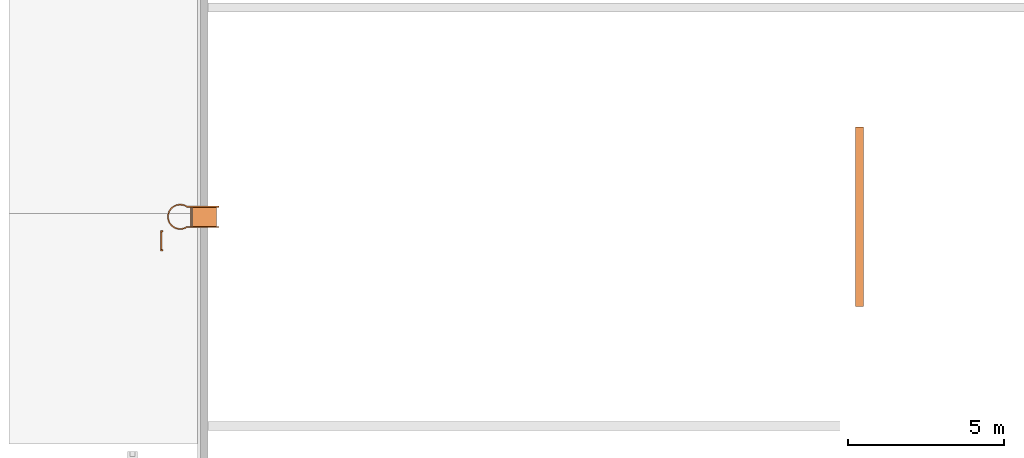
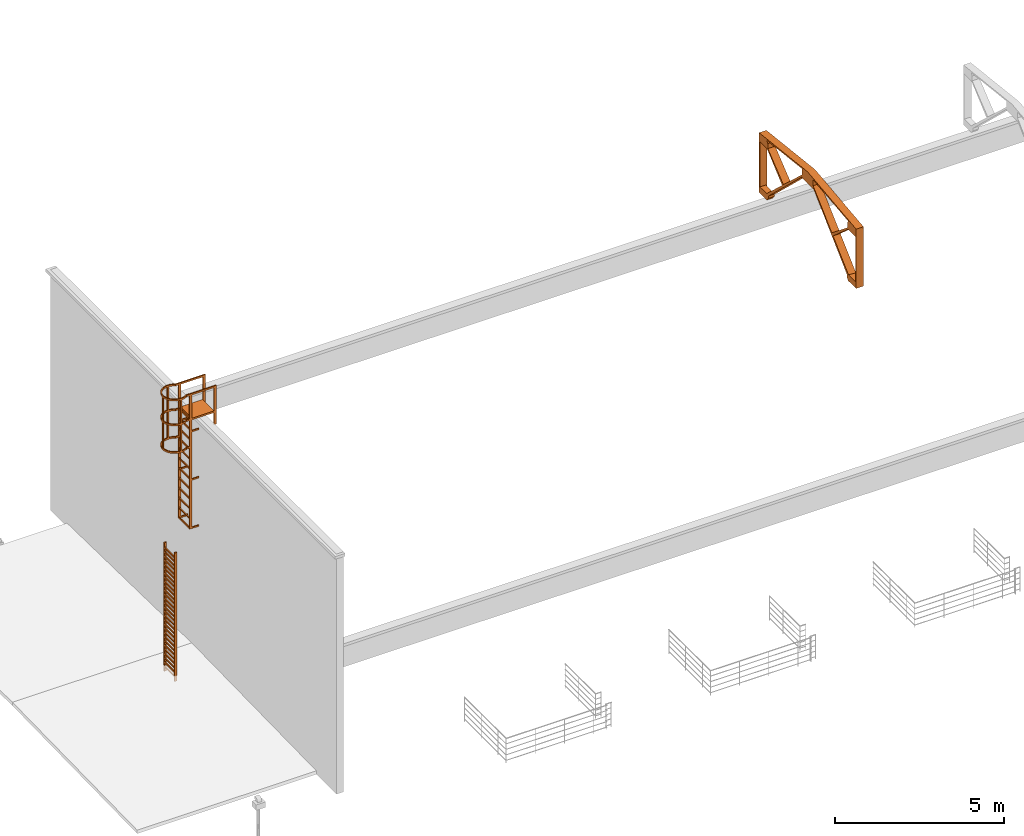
# One storey, part 4 of 6: 3 proxies.
"""IFC2X3 building model written with IfcOpenShell, lengths in millimetres."""

from ifc_helpers import new_model, entity, si_unit, converted_unit, derived_unit, direction, frame, frame_2d, origin, origin_2d_with_axis, place, context, subcontext, project, spatial, polyline, circle_curve, parameter, trimmed, segment, composite_curve, rectangle, outline, extrude, faceted_brep, source, transform, mapped, material, type_object, type_shapes, element, save


model = new_model("IFC2X3")

# Units and contexts
model_context = context("Model", 3, precision=0.01, world=origin(), true_north=direction((6.12303176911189e-17, 1.0)))
body_context = subcontext(model_context, "Body", "Model", "MODEL_VIEW")
ifc_project = project(units=[si_unit("LENGTHUNIT", "METRE", prefix="MILLI"), si_unit("AREAUNIT", "SQUARE_METRE"), si_unit("VOLUMEUNIT", "CUBIC_METRE"), converted_unit("PLANEANGLEUNIT", "DEGREE", entity("IfcRatioMeasure", 0.0174532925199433), si_unit("PLANEANGLEUNIT", "RADIAN"), dimensions=[0, 0, 0, 0, 0, 0, 0]), si_unit("MASSUNIT", "GRAM", prefix="KILO"), derived_unit("MASSDENSITYUNIT", [(si_unit("MASSUNIT", "GRAM", prefix="KILO"), 1), (si_unit("LENGTHUNIT", "METRE"), -3)]), si_unit("TIMEUNIT", "SECOND"), si_unit("FREQUENCYUNIT", "HERTZ"), si_unit("THERMODYNAMICTEMPERATUREUNIT", "DEGREE_CELSIUS"), derived_unit("THERMALTRANSMITTANCEUNIT", [(si_unit("MASSUNIT", "GRAM", prefix="KILO"), 1), (si_unit("THERMODYNAMICTEMPERATUREUNIT", "KELVIN"), -1), (si_unit("TIMEUNIT", "SECOND"), -3)]), derived_unit("VOLUMETRICFLOWRATEUNIT", [(si_unit("LENGTHUNIT", "METRE"), 3), (si_unit("TIMEUNIT", "SECOND"), -1)]), si_unit("ELECTRICCURRENTUNIT", "AMPERE"), si_unit("ELECTRICVOLTAGEUNIT", "VOLT"), si_unit("POWERUNIT", "WATT"), si_unit("FORCEUNIT", "NEWTON", prefix="KILO"), si_unit("ILLUMINANCEUNIT", "LUX"), si_unit("LUMINOUSFLUXUNIT", "LUMEN"), si_unit("LUMINOUSINTENSITYUNIT", "CANDELA"), derived_unit("USERDEFINED", [(si_unit("MASSUNIT", "GRAM", prefix="KILO"), -1), (si_unit("LENGTHUNIT", "METRE"), -2), (si_unit("TIMEUNIT", "SECOND"), 3), (si_unit("LUMINOUSFLUXUNIT", "LUMEN"), 1)]), derived_unit("LINEARVELOCITYUNIT", [(si_unit("LENGTHUNIT", "METRE"), 1), (si_unit("TIMEUNIT", "SECOND"), -1)]), si_unit("PRESSUREUNIT", "PASCAL"), derived_unit("USERDEFINED", [(si_unit("LENGTHUNIT", "METRE"), -2), (si_unit("MASSUNIT", "GRAM", prefix="KILO"), 1), (si_unit("TIMEUNIT", "SECOND"), -2)])], contexts=[model_context])

# Site, building, storey
site_placement = place(None, origin())
site = spatial("IfcSite", under=ifc_project, at=site_placement, Name="表面", CompositionType="ELEMENT")
building_placement = place(site_placement, origin())
building = spatial("IfcBuilding", under=site, at=building_placement, CompositionType="ELEMENT")
storey_placement = place(building_placement, frame((0.0, 0.0, 3300.0)))
storey = spatial("IfcBuildingStorey", under=building, at=storey_placement, Name="3.3000", CompositionType="ELEMENT", Elevation=3300.0)

# Proxies
ifc_material_1 = material(Name="钢材")
building_element_proxy_type_1 = type_object("IfcBuildingElementProxyType", Name="最上层房顶钢架", PredefinedType="NOTDEFINED", material=ifc_material_1)
shared_shape_1 = source(origin(), body_context, "Body", "Brep", [
    faceted_brep([(0.0, -250.0, 2430.07713782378), (2880.0, -250.0, 2101.40054995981), (2880.0, -250.0, 2153.09870565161), (0.0, -250.0, 2481.77529351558), (-2880.0, -250.0, 2153.09870565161), (-2880.0, -250.0, 2101.40054995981), (0.0, -200.0, 2430.07713782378), (327.886284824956, -200.0, 2392.65750403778), (327.886284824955, 0.0, 2392.65750403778), (2425.65510941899, 0.0, 2153.25212230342), (2425.65510941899, -200.0, 2153.25212230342), (2880.0, -200.0, 2101.40054995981), (2880.0, 0.0, 2153.09870565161), (0.0, 0.0, 2481.77529351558), (-2880.0, 0.0, 2153.09870565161), (-2880.0, -200.0, 2101.40054995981), (-2425.65510941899, -200.0, 2153.25212230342), (-2425.65510941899, 0.0, 2153.25212230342), (-327.886284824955, 0.0, 2392.65750403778), (-327.886284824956, -200.0, 2392.65750403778), (2880.0, 0.0, 0.0), (2409.22180214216, 0.0, 0.0), (2321.60421988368, 0.0, 111.252545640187), (2321.60421988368, 0.0, 197.515282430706), (327.886284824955, 0.0, 2095.90744203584), (327.886284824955, 0.0, 2059.45748960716), (-327.886284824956, 0.0, 2059.45748960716), (-327.886284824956, 0.0, 2095.90744203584), (-2328.1514706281, 0.0, 191.281075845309), (-2328.15147062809, 0.0, 102.939164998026), (-2409.22180214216, 0.0, 0.0), (-2880.0, 0.0, 0.0), (-2830.0, 0.0, 1859.04288670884), (-2830.0, 0.0, 220.0), (-2430.0, 0.0, 220.0), (-1509.36639488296, 0.0, 1078.50472557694), (-2407.27283607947, 0.0, 1859.04288670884), (-2358.15147062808, 0.0, 2073.12862037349), (-2358.15147062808, 0.0, 1893.80838376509), (-1435.91686212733, 0.0, 1146.99752294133), (-327.886284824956, 0.0, 2180.25275217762), (2830.0, 0.0, 1859.04288670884), (2407.27283607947, 0.0, 1859.04288670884), (1509.36639488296, 0.0, 1078.50472557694), (2430.0, 0.0, 220.0), (2830.0, 0.0, 220.0), (2358.15147062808, 0.0, 2073.12862037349), (327.886284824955, 0.0, 2180.25275217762), (1435.91686212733, 0.0, 1146.99752294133), (2358.15147062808, 0.0, 1893.80838376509), (-327.886284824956, -200.0, 2180.25275217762), (327.886284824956, -200.0, 2059.45748960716), (327.886284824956, -200.0, 2095.90744203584), (-327.886284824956, -200.0, 2059.45748960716), (208.139562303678, -200.0, 2209.92870611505), (250.56596917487, -200.0, 2252.35511298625), (327.886284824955, -200.0, 2180.25275217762), (-250.56596917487, -200.0, 2252.35511298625), (-208.139562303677, -200.0, 2209.92870611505), (-327.886284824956, -200.0, 2095.90744203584), (2880.0, -200.0, 2076.55913025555), (2880.0, -250.0, 2076.55913025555), (2880.0, -250.0, 0.0), (2358.15147062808, -200.0, 2073.12862037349), (2358.15147062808, -200.0, 1893.80838376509), (2408.42093426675, -200.0, 1934.51579277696), (2448.26226948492, -200.0, 1894.67445755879), (2407.27283607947, -200.0, 1859.04288670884), (2830.0, -200.0, 1859.04288670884), (2830.0, -200.0, 2076.55913025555), (-2409.22180214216, -200.0, 0.0), (-2328.15147062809, -200.0, 102.939164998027), (-2328.15147062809, -200.0, 191.281075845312), (-2399.52603289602, -200.0, 123.319150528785), (-2464.25943882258, -200.0, 188.052556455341), (-2430.0, -200.0, 220.0), (-2830.0, -200.0, 220.0), (-2830.0, -200.0, 0.0), (-2880.0, -250.0, 0.0), (-2880.0, -250.0, 2099.04288670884), (-2880.0, -200.0, 2099.04288670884), (-2830.0, -250.0, 0.0), (-2358.15147062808, -200.0, 2073.12862037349), (-2830.0, -200.0, 2099.04288670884), (-2830.0, -200.0, 1859.04288670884), (-2407.27283607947, -200.0, 1859.04288670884), (-2448.26226948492, -200.0, 1894.67445755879), (-2408.42093426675, -200.0, 1934.51579277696), (-2358.15147062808, -200.0, 1893.80838376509), (2321.60421988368, -200.0, 111.252545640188), (2409.22180214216, -200.0, 0.0), (2830.0, -200.0, 0.0), (2830.0, -200.0, 220.0), (2430.0, -200.0, 220.0), (2464.25943882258, -200.0, 188.05255645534), (2399.52603289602, -200.0, 123.319150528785), (2321.60421988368, -200.0, 197.515282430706), (2830.0, -250.0, 0.0), (-2830.0, -250.0, 2099.04288670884), (2830.0, -250.0, 2076.55913025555), (-2464.25943882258, -250.0, 188.052556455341), (-2399.52603289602, -250.0, 123.319150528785), (-208.139562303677, -250.0, 2209.92870611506), (-250.565969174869, -250.0, 2252.35511298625), (-1435.91686212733, -250.0, 1146.99752294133), (-2408.42093426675, -250.0, 1934.51579277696), (-2448.26226948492, -250.0, 1894.67445755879), (-1509.36639488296, -250.0, 1078.50472557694), (250.56596917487, -250.0, 2252.35511298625), (208.139562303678, -250.0, 2209.92870611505), (2399.52603289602, -250.0, 123.319150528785), (2464.25943882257, -250.0, 188.052556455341), (1509.36639488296, -250.0, 1078.50472557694), (2448.26226948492, -250.0, 1894.67445755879), (2408.42093426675, -250.0, 1934.51579277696), (1435.91686212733, -250.0, 1146.99752294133)], [[[0, 1, 2, 3, 4, 5]], [[1, 0, 6, 7, 8, 9, 10, 11]], [[3, 2, 12, 13]], [[4, 3, 13, 14]], [[0, 5, 15, 16, 17, 18, 19, 6]], [[13, 12, 20, 21, 22, 23, 24, 25, 26, 27, 28, 29, 30, 31, 14], [32, 33, 34, 35, 36], [17, 37, 38, 39, 40, 18], [41, 42, 43, 44, 45], [46, 9, 8, 47, 48, 49]], [[19, 18, 40, 50]], [[51, 25, 24, 52]], [[53, 51, 52, 54, 55, 56, 7, 6, 19, 50, 57, 58, 59]], [[2, 1, 11, 60, 61, 62, 20, 12]], [[10, 63, 64, 65, 66, 67, 68, 69, 60, 11]], [[46, 63, 10, 9]], [[63, 46, 49, 64]], [[41, 68, 67, 42]], [[70, 71, 72, 73, 74, 75, 76, 77]], [[33, 76, 75, 34]], [[5, 4, 14, 31, 78, 79, 80, 15]], [[30, 70, 77, 81, 78, 31]], [[71, 70, 30, 29]], [[71, 29, 28, 72]], [[82, 16, 15, 80, 83, 84, 85, 86, 87, 88]], [[84, 32, 36, 85]], [[37, 82, 88, 38]], [[82, 37, 17, 16]], [[51, 53, 26, 25]], [[89, 90, 91, 92, 93, 94, 95, 96]], [[22, 89, 96, 23]], [[90, 89, 22, 21]], [[90, 21, 20, 62, 97, 91]], [[92, 45, 44, 93]], [[98, 79, 78, 81]], [[79, 98, 83, 80]], [[98, 81, 77, 76, 33, 32, 84, 83]], [[99, 97, 62, 61]], [[97, 99, 69, 68, 41, 45, 92, 91]], [[99, 61, 60, 69]], [[100, 101, 102, 103, 104, 105, 106, 107]], [[103, 57, 50, 40, 39, 104]], [[101, 100, 74, 73]], [[102, 101, 73, 72, 28, 27, 59, 58]], [[103, 102, 58, 57]], [[105, 104, 39, 38, 88, 87]], [[106, 105, 87, 86]], [[107, 106, 86, 85, 36, 35]], [[108, 109, 110, 111, 112, 113, 114, 115]], [[109, 108, 55, 54]], [[110, 109, 54, 52, 24, 23, 96, 95]], [[111, 110, 95, 94]], [[55, 108, 115, 48, 47, 56]], [[113, 112, 43, 42, 67, 66]], [[114, 113, 66, 65]], [[115, 114, 65, 64, 49, 48]], [[111, 94, 93, 44, 43, 112]], [[74, 100, 107, 35, 34, 75]], [[8, 7, 56, 47]], [[26, 53, 59, 27]]]),
])
type_shapes(building_element_proxy_type_1, [shared_shape_1])
proxy_1_placement = place(storey_placement, frame((-11228.7987814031, 8109.69440753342, 7544.2315490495), z_axis=(0.0, 0.0, 1.0), x_axis=(0.0, 1.0, 0.0)))
element("IfcBuildingElementProxy", 1, at=proxy_1_placement, inside=storey, type_object=building_element_proxy_type_1, material=ifc_material_1, Name="最上层房顶钢架:最上层房顶钢架", ObjectType="最上层房顶钢架", context=body_context, shape_type="MappedRepresentation", body=[
    mapped(shared_shape_1, transform((0.0, 0.0, 0.0), scale=1.0)),
])
ifc_material_2 = material(Name="彩钢")
building_element_proxy_type_2 = type_object("IfcBuildingElementProxyType", Name="直爬梯", PredefinedType="NOTDEFINED", material=ifc_material_2)
shared_shape_2 = source(origin(), body_context, "Body", "SweptSolid", [
    extrude(rectangle(XDim=38.1000000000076, YDim=250.0, at=frame_2d((1.59872115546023e-14, -2.8421709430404e-14), x_axis=(1.0, 0.0))), frame((-323.849999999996, 245.0, 1750.0), z_axis=(0.0, 0.0, 1.0), x_axis=(-1.0, 0.0, 0.0)), (0.0, 0.0, 1.0), 49.9999999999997),
    extrude(rectangle(XDim=250.0, YDim=38.1000000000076, at=frame_2d((0.0, 1.59872115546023e-14), x_axis=(1.0, 0.0))), frame((323.849999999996, 245.0, 1750.0), z_axis=(0.0, 0.0, 1.0), x_axis=(0.0, -1.0, 0.0)), (0.0, 0.0, 1.0), 49.9999999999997),
    extrude(rectangle(XDim=38.1000000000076, YDim=250.0, at=frame_2d((1.59872115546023e-14, -2.8421709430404e-14), x_axis=(1.0, 0.0))), frame((-323.849999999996, 245.0, 3500.0), z_axis=(0.0, 0.0, 1.0), x_axis=(-1.0, 0.0, 0.0)), (0.0, 0.0, 1.0), 49.9999999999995),
    extrude(rectangle(XDim=250.0, YDim=38.1000000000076, at=frame_2d((0.0, 1.59872115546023e-14), x_axis=(1.0, 0.0))), frame((323.849999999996, 245.0, 3500.0), z_axis=(0.0, 0.0, 1.0), x_axis=(0.0, -1.0, 0.0)), (0.0, 0.0, 1.0), 49.9999999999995),
    extrude(rectangle(XDim=38.1000000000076, YDim=250.0, at=frame_2d((1.59872115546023e-14, -2.8421709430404e-14), x_axis=(1.0, 0.0))), frame((-323.849999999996, 245.0, 0.0), z_axis=(0.0, 0.0, 1.0), x_axis=(-1.0, 0.0, 0.0)), (0.0, 0.0, 1.0), 49.9999999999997),
    extrude(rectangle(XDim=250.0, YDim=38.1000000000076, at=frame_2d((0.0, 1.59872115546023e-14), x_axis=(1.0, 0.0))), frame((323.849999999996, 245.0, 0.0), z_axis=(0.0, 0.0, 1.0), x_axis=(0.0, -1.0, 0.0)), (0.0, 0.0, 1.0), 49.9999999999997),
    extrude(rectangle(XDim=610.0, YDim=38.1000000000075, at=origin_2d_with_axis()), frame((0.200000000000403, 427.149999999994, 3590.90909090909), z_axis=(0.0, 0.0, 1.0), x_axis=(-1.0, 0.0, 0.0)), (0.0, 0.0, 1.0), 49.9999999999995),
    extrude(rectangle(XDim=610.0, YDim=38.1000000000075, at=origin_2d_with_axis()), frame((0.200000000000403, 427.149999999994, 3231.81818181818), z_axis=(0.0, 0.0, 1.0), x_axis=(-1.0, 0.0, 0.0)), (0.0, 0.0, 1.0), 49.9999999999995),
    extrude(rectangle(XDim=610.0, YDim=38.1000000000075, at=origin_2d_with_axis()), frame((0.200000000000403, 427.149999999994, 2872.72727272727), z_axis=(0.0, 0.0, 1.0), x_axis=(-1.0, 0.0, 0.0)), (0.0, 0.0, 1.0), 49.9999999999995),
    extrude(rectangle(XDim=610.0, YDim=38.1000000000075, at=origin_2d_with_axis()), frame((0.200000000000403, 427.149999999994, 2513.63636363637), z_axis=(0.0, 0.0, 1.0), x_axis=(-1.0, 0.0, 0.0)), (0.0, 0.0, 1.0), 49.9999999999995),
    extrude(rectangle(XDim=610.0, YDim=38.1000000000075, at=frame_2d((0.0, -6.75015598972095e-14), x_axis=(1.0, 0.0))), frame((0.200000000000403, 427.149999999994, 2154.54545454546), z_axis=(0.0, 0.0, 1.0), x_axis=(-1.0, 0.0, 0.0)), (0.0, 0.0, 1.0), 49.9999999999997),
    extrude(rectangle(XDim=610.0, YDim=38.1000000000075, at=frame_2d((0.0, -6.75015598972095e-14), x_axis=(1.0, 0.0))), frame((0.200000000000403, 427.149999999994, 1795.45454545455), z_axis=(0.0, 0.0, 1.0), x_axis=(-1.0, 0.0, 0.0)), (0.0, 0.0, 1.0), 49.9999999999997),
    extrude(rectangle(XDim=610.0, YDim=38.1000000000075, at=origin_2d_with_axis()), frame((0.200000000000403, 427.149999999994, 1436.36363636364), z_axis=(0.0, 0.0, 1.0), x_axis=(-1.0, 0.0, 0.0)), (0.0, 0.0, 1.0), 49.9999999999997),
    extrude(rectangle(XDim=610.0, YDim=38.1000000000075, at=origin_2d_with_axis()), frame((0.200000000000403, 427.149999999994, 1077.27272727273), z_axis=(0.0, 0.0, 1.0), x_axis=(-1.0, 0.0, 0.0)), (0.0, 0.0, 1.0), 49.9999999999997),
    extrude(rectangle(XDim=610.0, YDim=38.1000000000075, at=origin_2d_with_axis()), frame((0.200000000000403, 427.149999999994, 718.181818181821), z_axis=(0.0, 0.0, 1.0), x_axis=(-1.0, 0.0, 0.0)), (0.0, 0.0, 1.0), 49.9999999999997),
    extrude(rectangle(XDim=610.0, YDim=38.1000000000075, at=frame_2d((0.0, 6.75015598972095e-14), x_axis=(1.0, 0.0))), frame((0.200000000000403, 427.149999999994, 359.090909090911), z_axis=(0.0, 0.0, 1.0), x_axis=(-1.0, 0.0, 0.0)), (0.0, 0.0, 1.0), 49.9999999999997),
    extrude(rectangle(XDim=610.0, YDim=38.1000000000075, at=origin_2d_with_axis()), frame((0.199999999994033, 427.149999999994, 3950.0), z_axis=(0.0, 0.0, 1.0), x_axis=(-1.0, 0.0, 0.0)), (0.0, 0.0, 1.0), 49.9999999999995),
    extrude(rectangle(XDim=610.0, YDim=38.1000000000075, at=frame_2d((0.0, 6.75015598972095e-14), x_axis=(1.0, 0.0))), frame((0.200000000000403, 427.149999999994, 0.0), z_axis=(0.0, 0.0, 1.0), x_axis=(-1.0, 0.0, 0.0)), (0.0, 0.0, 1.0), 49.9999999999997),
    extrude(outline(composite_curve([segment(trimmed(circle_curve(frame_2d((0.0, 271.706393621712), x_axis=(1.0, 0.0)), 409.922498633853), [parameter(326.772309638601)], [parameter(213.227690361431)], True, "PARAMETER"), True, "CONTINUOUS"), segment(polyline([(-342.900000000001, 47.0821632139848), (-342.899999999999, -52.9178367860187)]), True, "CONTINUOUS"), segment(polyline([(-342.899999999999, -52.9178367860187), (-304.800000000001, -52.9178367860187)]), True, "CONTINUOUS"), segment(polyline([(-304.800000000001, -52.9178367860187), (-304.800000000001, 58.7535103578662)]), True, "CONTINUOUS"), segment(trimmed(circle_curve(frame_2d((0.0, 271.706393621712), x_axis=(1.0, 0.0)), 371.822498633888), [parameter(325.059373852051)], [parameter(214.940626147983)], True, "PARAMETER"), False, "CONTINUOUS"), segment(polyline([(304.800000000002, 58.7535103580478), (304.8, -52.9178367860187)]), True, "CONTINUOUS"), segment(polyline([(304.8, -52.9178367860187), (342.900000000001, -52.9178367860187)]), True, "CONTINUOUS"), segment(polyline([(342.900000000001, -52.9178367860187), (342.900000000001, 47.0821632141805)]), True, "CONTINUOUS")], self_intersect=False)), frame((0.0, 499.117836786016, 2936.5)), (0.0, 0.0, 1.0), 63.5000000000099),
    extrude(rectangle(XDim=916.199999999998, YDim=38.0999999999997, at=origin_2d_with_axis()), frame((323.85, -11.9000000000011, 4836.5), z_axis=(0.0, 0.0, 1.0), x_axis=(0.0, 1.0, 0.0)), (0.0, 0.0, 1.0), 63.5000000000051),
    extrude(rectangle(XDim=916.199999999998, YDim=38.1000000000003, at=frame_2d((0.0, -1.77635683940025e-14), x_axis=(1.0, 0.0))), frame((-323.85, -11.9000000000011, 4836.5), z_axis=(0.0, 0.0, 1.0), x_axis=(0.0, 1.0, 0.0)), (0.0, 0.0, 1.0), 63.5000000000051),
    extrude(rectangle(XDim=916.199999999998, YDim=38.0999999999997, at=origin_2d_with_axis()), frame((323.85, -11.9000000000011, 3936.49999999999), z_axis=(0.0, 0.0, 1.0), x_axis=(0.0, 1.0, 0.0)), (0.0, 0.0, 1.0), 63.5000000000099),
    extrude(rectangle(XDim=916.199999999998, YDim=38.0999999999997, at=origin_2d_with_axis()), frame((-323.849999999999, -11.9000000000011, 3936.49999999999), z_axis=(0.0, 0.0, 1.0), x_axis=(0.0, 1.0, 0.0)), (0.0, 0.0, 1.0), 63.5000000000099),
    extrude(rectangle(XDim=609.6, YDim=763.8, at=origin_2d_with_axis()), frame((0.0, -11.8999999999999, 3936.49999999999), z_axis=(0.0, 0.0, 1.0), x_axis=(-1.0, 0.0, 0.0)), (0.0, 0.0, 1.0), 63.5000000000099),
    extrude(rectangle(XDim=38.1000000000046, YDim=50.8000000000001, at=origin_2d_with_axis()), frame((390.872498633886, 770.824230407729, 3000.0), z_axis=(0.0, 0.0, 1.0), x_axis=(-1.0, 0.0, 0.0)), (0.0, 0.0, 1.0), 1836.5),
    extrude(rectangle(XDim=38.0999999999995, YDim=50.8000000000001, at=frame_2d((-3.37507799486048e-14, 0.0), x_axis=(1.0, 0.0))), frame((-390.872498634, 770.824230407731, 3000.0), z_axis=(0.0, 0.0, 1.0), x_axis=(-1.0, 0.0, 0.0)), (0.0, 0.0, 1.0), 1836.5),
    extrude(rectangle(XDim=50.8000000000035, YDim=38.1, at=origin_2d_with_axis()), frame((-0.71886980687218, 1160.11300327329, 3000.0), z_axis=(0.0, 0.0, 1.0), x_axis=(-1.0, 0.0, 0.0)), (0.0, 0.0, 1.0), 1836.5),
    extrude(rectangle(XDim=38.1000000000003, YDim=76.1999999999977, at=origin_2d_with_axis()), frame((323.85, 408.099999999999, 0.0), z_axis=(0.0, 0.0, 1.0), x_axis=(-1.0, 0.0, 0.0)), (0.0, 0.0, 1.0), 4836.5),
    extrude(rectangle(XDim=38.1000000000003, YDim=76.1999999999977, at=origin_2d_with_axis()), frame((-323.85, 408.099999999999, 0.0), z_axis=(0.0, 0.0, 1.0), x_axis=(-1.0, 0.0, 0.0)), (0.0, 0.0, 1.0), 4836.5),
    extrude(rectangle(XDim=38.0999999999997, YDim=76.2, at=origin_2d_with_axis()), frame((323.85, -431.9, 3500.0), z_axis=(0.0, 0.0, 1.0), x_axis=(-1.0, 0.0, 0.0)), (0.0, 0.0, 1.0), 1336.5),
    extrude(rectangle(XDim=38.1000000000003, YDim=76.2, at=frame_2d((-1.77635683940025e-14, 0.0), x_axis=(1.0, 0.0))), frame((-323.85, -431.9, 3500.0), z_axis=(0.0, 0.0, 1.0), x_axis=(-1.0, 0.0, 0.0)), (0.0, 0.0, 1.0), 1336.5),
    extrude(outline(composite_curve([segment(trimmed(circle_curve(frame_2d((0.0, 271.706393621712), x_axis=(1.0, 0.0)), 409.922498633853), [parameter(326.772309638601)], [parameter(213.227690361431)], True, "PARAMETER"), True, "CONTINUOUS"), segment(polyline([(-342.900000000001, 47.0821632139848), (-342.899999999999, -52.9178367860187)]), True, "CONTINUOUS"), segment(polyline([(-342.899999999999, -52.9178367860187), (-304.800000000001, -52.9178367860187)]), True, "CONTINUOUS"), segment(polyline([(-304.800000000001, -52.9178367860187), (-304.800000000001, 58.7535103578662)]), True, "CONTINUOUS"), segment(trimmed(circle_curve(frame_2d((0.0, 271.706393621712), x_axis=(1.0, 0.0)), 371.822498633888), [parameter(325.059373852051)], [parameter(214.940626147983)], True, "PARAMETER"), False, "CONTINUOUS"), segment(polyline([(304.800000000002, 58.7535103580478), (304.8, -52.9178367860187)]), True, "CONTINUOUS"), segment(polyline([(304.8, -52.9178367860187), (342.900000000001, -52.9178367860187)]), True, "CONTINUOUS"), segment(polyline([(342.900000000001, -52.9178367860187), (342.900000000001, 47.0821632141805)]), True, "CONTINUOUS")], self_intersect=False)), frame((0.0, 499.117836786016, 3936.49999999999)), (0.0, 0.0, 1.0), 63.5000000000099),
    extrude(outline(composite_curve([segment(polyline([(-47.0821632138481, -342.899999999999), (52.917836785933, -342.899999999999)]), True, "CONTINUOUS"), segment(polyline([(52.917836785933, -342.899999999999), (52.917836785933, -304.799999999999)]), True, "CONTINUOUS"), segment(polyline([(52.917836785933, -304.799999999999), (-58.7535103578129, -304.800000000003)]), True, "CONTINUOUS"), segment(trimmed(circle_curve(frame_2d((-271.706393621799, 0.0), x_axis=(0.0, 1.0)), 371.822498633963), [parameter(325.059373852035)], [parameter(214.940626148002)], True, "PARAMETER"), False, "CONTINUOUS"), segment(polyline([(-58.7535103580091, 304.800000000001), (52.917836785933, 304.800000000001)]), True, "CONTINUOUS"), segment(polyline([(52.917836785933, 304.800000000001), (52.917836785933, 342.900000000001)]), True, "CONTINUOUS"), segment(polyline([(52.917836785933, 342.900000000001), (-47.0821632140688, 342.899999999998)]), True, "CONTINUOUS"), segment(trimmed(circle_curve(frame_2d((-271.706393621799, 0.0), x_axis=(0.0, 1.0)), 409.922498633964), [parameter(326.772309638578)], [parameter(213.227690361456)], True, "PARAMETER"), True, "CONTINUOUS")], self_intersect=False)), frame((0.0, 499.117836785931, 4836.5), z_axis=(0.0, 0.0, 1.0), x_axis=(0.0, -1.0, 0.0)), (0.0, 0.0, 1.0), 63.5000000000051),
])
type_shapes(building_element_proxy_type_2, [shared_shape_2])
proxy_2_placement = place(storey_placement, frame((-32148.798781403, 8109.69740738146, 4763.50000000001), z_axis=(0.0, 0.0, 1.0), x_axis=(0.0, 1.0, 0.0)))
element("IfcBuildingElementProxy", 2, at=proxy_2_placement, inside=storey, type_object=building_element_proxy_type_2, material=ifc_material_2, Name="直爬梯:直爬梯", ObjectType="直爬梯", context=body_context, shape_type="MappedRepresentation", body=[
    mapped(shared_shape_2, transform((0.0, 0.0, 0.0), scale=1.0)),
])
building_element_proxy_type_3 = type_object("IfcBuildingElementProxyType", Name="直梯 2", PredefinedType="NOTDEFINED", material=ifc_material_2)
shared_shape_3 = source(origin(), body_context, "Body", "SweptSolid", [
    extrude(rectangle(XDim=560.0, YDim=38.1000000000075, at=origin_2d_with_axis()), frame((-10.0, 19.050000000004, 4300.07265506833), z_axis=(0.0, 0.0, 1.0), x_axis=(-1.0, 0.0, 0.0)), (0.0, 0.0, 1.0), 49.9999999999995),
    extrude(rectangle(XDim=560.0, YDim=38.1000000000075, at=origin_2d_with_axis()), frame((-10.0, 19.050000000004, 4146.36626043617), z_axis=(0.0, 0.0, 1.0), x_axis=(-1.0, 0.0, 0.0)), (0.0, 0.0, 1.0), 49.9999999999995),
    extrude(rectangle(XDim=560.0, YDim=38.1000000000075, at=origin_2d_with_axis()), frame((-10.0, 19.050000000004, 3992.65986580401), z_axis=(0.0, 0.0, 1.0), x_axis=(-1.0, 0.0, 0.0)), (0.0, 0.0, 1.0), 49.9999999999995),
    extrude(rectangle(XDim=560.0, YDim=38.1000000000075, at=origin_2d_with_axis()), frame((-10.0, 19.050000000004, 3838.95347117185), z_axis=(0.0, 0.0, 1.0), x_axis=(-1.0, 0.0, 0.0)), (0.0, 0.0, 1.0), 49.9999999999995),
    extrude(rectangle(XDim=560.0, YDim=38.1000000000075, at=origin_2d_with_axis()), frame((-10.0, 19.050000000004, 3685.24707653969), z_axis=(0.0, 0.0, 1.0), x_axis=(-1.0, 0.0, 0.0)), (0.0, 0.0, 1.0), 49.9999999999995),
    extrude(rectangle(XDim=560.0, YDim=38.1000000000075, at=origin_2d_with_axis()), frame((-10.0, 19.050000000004, 3531.54068190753), z_axis=(0.0, 0.0, 1.0), x_axis=(-1.0, 0.0, 0.0)), (0.0, 0.0, 1.0), 49.9999999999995),
    extrude(rectangle(XDim=560.0, YDim=38.1000000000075, at=origin_2d_with_axis()), frame((-10.0, 19.050000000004, 3377.83428727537), z_axis=(0.0, 0.0, 1.0), x_axis=(-1.0, 0.0, 0.0)), (0.0, 0.0, 1.0), 49.9999999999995),
    extrude(rectangle(XDim=560.0, YDim=38.1000000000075, at=origin_2d_with_axis()), frame((-10.0, 19.050000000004, 3224.12789264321), z_axis=(0.0, 0.0, 1.0), x_axis=(-1.0, 0.0, 0.0)), (0.0, 0.0, 1.0), 49.9999999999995),
    extrude(rectangle(XDim=560.0, YDim=38.1000000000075, at=origin_2d_with_axis()), frame((-10.0, 19.050000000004, 3070.42149801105), z_axis=(0.0, 0.0, 1.0), x_axis=(-1.0, 0.0, 0.0)), (0.0, 0.0, 1.0), 49.9999999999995),
    extrude(rectangle(XDim=560.0, YDim=38.1000000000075, at=origin_2d_with_axis()), frame((-10.0, 19.050000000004, 2916.71510337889), z_axis=(0.0, 0.0, 1.0), x_axis=(-1.0, 0.0, 0.0)), (0.0, 0.0, 1.0), 49.9999999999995),
    extrude(rectangle(XDim=560.0, YDim=38.1000000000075, at=origin_2d_with_axis()), frame((-10.0, 19.050000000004, 2763.00870874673), z_axis=(0.0, 0.0, 1.0), x_axis=(-1.0, 0.0, 0.0)), (0.0, 0.0, 1.0), 49.9999999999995),
    extrude(rectangle(XDim=560.0, YDim=38.1000000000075, at=origin_2d_with_axis()), frame((-10.0, 19.050000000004, 2609.30231411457), z_axis=(0.0, 0.0, 1.0), x_axis=(-1.0, 0.0, 0.0)), (0.0, 0.0, 1.0), 49.9999999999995),
    extrude(rectangle(XDim=560.0, YDim=38.1000000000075, at=origin_2d_with_axis()), frame((-10.0, 19.050000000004, 2455.59591948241), z_axis=(0.0, 0.0, 1.0), x_axis=(-1.0, 0.0, 0.0)), (0.0, 0.0, 1.0), 49.9999999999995),
    extrude(rectangle(XDim=560.0, YDim=38.1000000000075, at=origin_2d_with_axis()), frame((-10.0, 19.050000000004, 2301.88952485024), z_axis=(0.0, 0.0, 1.0), x_axis=(-1.0, 0.0, 0.0)), (0.0, 0.0, 1.0), 49.9999999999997),
    extrude(rectangle(XDim=560.0, YDim=38.1000000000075, at=origin_2d_with_axis()), frame((-10.0, 19.050000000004, 2148.18313021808), z_axis=(0.0, 0.0, 1.0), x_axis=(-1.0, 0.0, 0.0)), (0.0, 0.0, 1.0), 49.9999999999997),
    extrude(rectangle(XDim=560.0, YDim=38.1000000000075, at=origin_2d_with_axis()), frame((-10.0, 19.050000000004, 1994.47673558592), z_axis=(0.0, 0.0, 1.0), x_axis=(-1.0, 0.0, 0.0)), (0.0, 0.0, 1.0), 49.9999999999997),
    extrude(rectangle(XDim=560.0, YDim=38.1000000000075, at=origin_2d_with_axis()), frame((-10.0, 19.050000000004, 1840.77034095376), z_axis=(0.0, 0.0, 1.0), x_axis=(-1.0, 0.0, 0.0)), (0.0, 0.0, 1.0), 49.9999999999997),
    extrude(rectangle(XDim=560.0, YDim=38.1000000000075, at=origin_2d_with_axis()), frame((-10.0, 19.050000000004, 1687.0639463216), z_axis=(0.0, 0.0, 1.0), x_axis=(-1.0, 0.0, 0.0)), (0.0, 0.0, 1.0), 49.9999999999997),
    extrude(rectangle(XDim=560.0, YDim=38.1000000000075, at=origin_2d_with_axis()), frame((-10.0, 19.050000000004, 1533.35755168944), z_axis=(0.0, 0.0, 1.0), x_axis=(-1.0, 0.0, 0.0)), (0.0, 0.0, 1.0), 49.9999999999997),
    extrude(rectangle(XDim=560.0, YDim=38.1000000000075, at=origin_2d_with_axis()), frame((-10.0, 19.050000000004, 1379.65115705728), z_axis=(0.0, 0.0, 1.0), x_axis=(-1.0, 0.0, 0.0)), (0.0, 0.0, 1.0), 49.9999999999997),
    extrude(rectangle(XDim=560.0, YDim=38.1000000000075, at=origin_2d_with_axis()), frame((-10.0, 19.050000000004, 1225.94476242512), z_axis=(0.0, 0.0, 1.0), x_axis=(-1.0, 0.0, 0.0)), (0.0, 0.0, 1.0), 49.9999999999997),
    extrude(rectangle(XDim=560.0, YDim=38.1000000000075, at=origin_2d_with_axis()), frame((-10.0, 19.050000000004, 1072.23836779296), z_axis=(0.0, 0.0, 1.0), x_axis=(-1.0, 0.0, 0.0)), (0.0, 0.0, 1.0), 49.9999999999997),
    extrude(rectangle(XDim=560.0, YDim=38.1000000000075, at=origin_2d_with_axis()), frame((-10.0, 19.050000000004, 918.531973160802), z_axis=(0.0, 0.0, 1.0), x_axis=(-1.0, 0.0, 0.0)), (0.0, 0.0, 1.0), 49.9999999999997),
    extrude(rectangle(XDim=560.0, YDim=38.1000000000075, at=origin_2d_with_axis()), frame((-10.0, 19.050000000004, 764.825578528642), z_axis=(0.0, 0.0, 1.0), x_axis=(-1.0, 0.0, 0.0)), (0.0, 0.0, 1.0), 49.9999999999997),
    extrude(rectangle(XDim=560.0, YDim=38.1000000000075, at=origin_2d_with_axis()), frame((-10.0, 19.050000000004, 611.119183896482), z_axis=(0.0, 0.0, 1.0), x_axis=(-1.0, 0.0, 0.0)), (0.0, 0.0, 1.0), 49.9999999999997),
    extrude(rectangle(XDim=560.0, YDim=38.1000000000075, at=origin_2d_with_axis()), frame((-10.0, 19.050000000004, 457.412789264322), z_axis=(0.0, 0.0, 1.0), x_axis=(-1.0, 0.0, 0.0)), (0.0, 0.0, 1.0), 49.9999999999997),
    extrude(rectangle(XDim=560.0, YDim=38.1000000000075, at=origin_2d_with_axis()), frame((-10.0, 19.050000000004, 303.706394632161), z_axis=(0.0, 0.0, 1.0), x_axis=(-1.0, 0.0, 0.0)), (0.0, 0.0, 1.0), 49.9999999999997),
    extrude(rectangle(XDim=560.0, YDim=38.1000000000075, at=origin_2d_with_axis()), frame((-10.0, 19.050000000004, 4453.77904970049), z_axis=(0.0, 0.0, 1.0), x_axis=(-1.0, 0.0, 0.0)), (0.0, 0.0, 1.0), 49.9999999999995),
    extrude(rectangle(XDim=560.0, YDim=38.1000000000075, at=origin_2d_with_axis()), frame((-10.0, 19.050000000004, 150.0), z_axis=(0.0, 0.0, 1.0), x_axis=(-1.0, 0.0, 0.0)), (0.0, 0.0, 1.0), 49.9999999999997),
    extrude(rectangle(XDim=80.0, YDim=49.9999999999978, at=origin_2d_with_axis()), frame((295.0, 40.0, 0.0), z_axis=(0.0, 0.0, 1.0), x_axis=(0.0, 1.0, 0.0)), (0.0, 0.0, 1.0), 4653.77904970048),
    extrude(rectangle(XDim=80.0, YDim=50.0000000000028, at=origin_2d_with_axis()), frame((-315.0, 40.0, 0.0), z_axis=(0.0, 0.0, 1.0), x_axis=(0.0, 1.0, 0.0)), (0.0, 0.0, 1.0), 4653.77904970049),
])
type_shapes(building_element_proxy_type_3, [shared_shape_3])
proxy_3_placement = place(storey_placement, frame((-33548.798781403, 7327.08428378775, 46.2209502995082), z_axis=(0.0, 0.0, 1.0), x_axis=(0.0, -1.0, 0.0)))
element("IfcBuildingElementProxy", 3, at=proxy_3_placement, inside=storey, type_object=building_element_proxy_type_3, material=ifc_material_2, Name="直梯:直梯 2", ObjectType="直梯 2", context=body_context, shape_type="MappedRepresentation", body=[
    mapped(shared_shape_3, transform((0.0, 0.0, 0.0), scale=1.0)),
])

save(model, "model.ifc")
